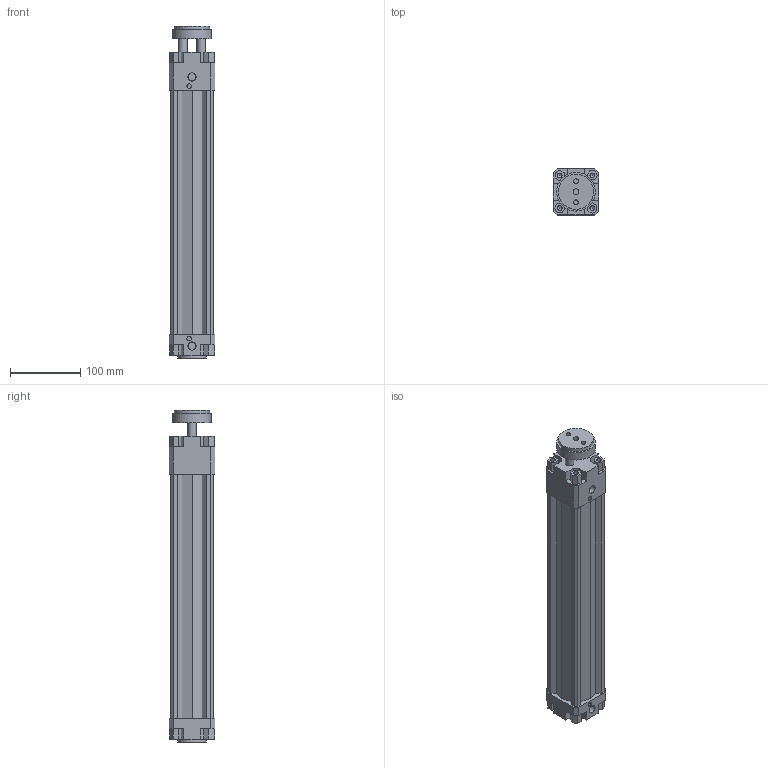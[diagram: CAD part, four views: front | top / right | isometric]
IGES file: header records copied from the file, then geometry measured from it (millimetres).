
Global section: file name: 134#_050_0300_01; native system: Autodesk Inventor 2014; preprocessor: unknown; author: A. Manieri; date: 20161006.164148; units: millimetre
Bounding box: 65 x 65 x 472 mm (x, y, z)
Volume: 900030.4 mm3; surface area: 240299.2 mm2
Topology: 2 solids, 2 shells, 180 faces, 492 edges, 336 vertices
Faces by surface type: bspline 180
